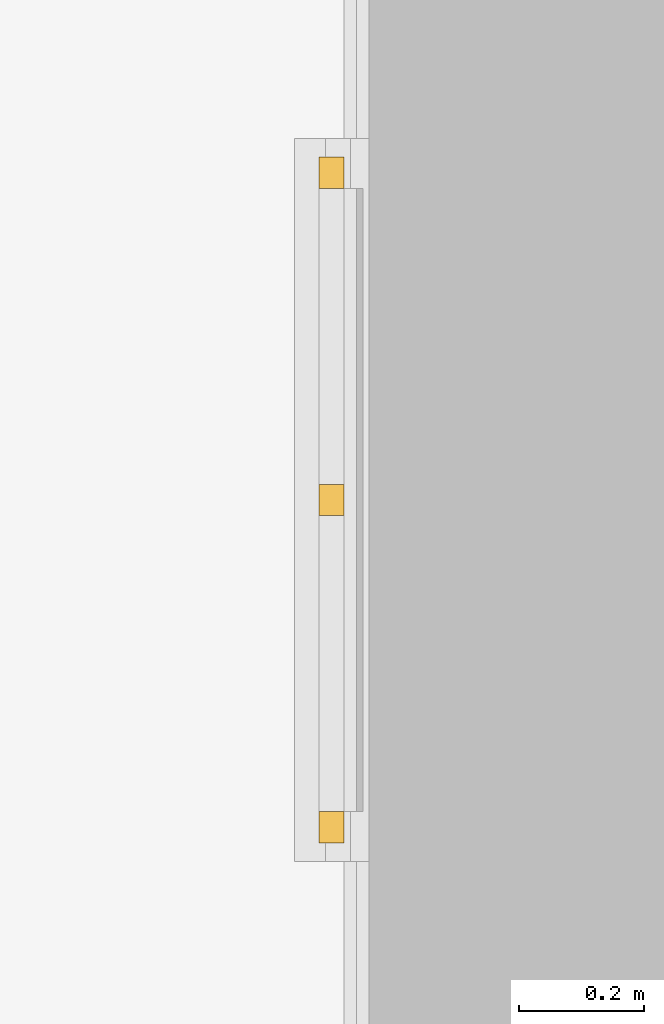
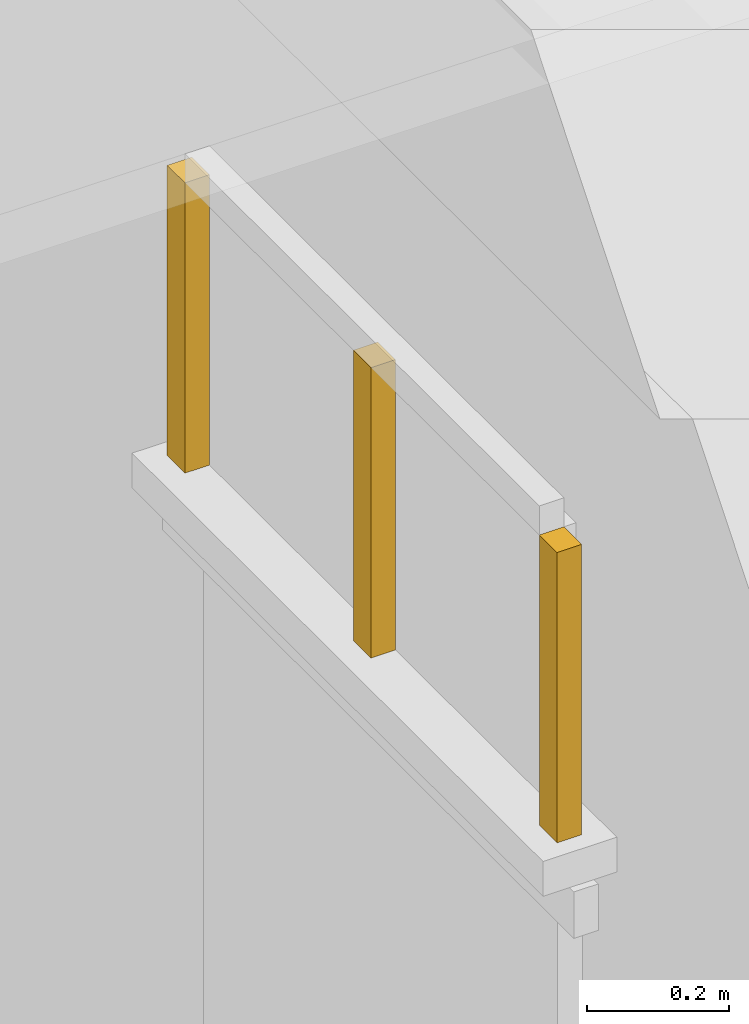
# One storey, part 88 of 177: 3 windows.
"""IFC4 building model written with IfcOpenShell, lengths in metres."""

from ifc_helpers import new_model, si_unit, origin, origin_with_axes, place, context, subcontext, project, spatial, triangles, element, save


model = new_model("IFC4")

# Units and contexts
model_context = context("Model", 3, precision=1e-05, world=origin_with_axes())
body_context = subcontext(model_context, "Body", "Model", "MODEL_VIEW")
ifc_project = project(units=[si_unit("LENGTHUNIT", "METRE"), si_unit("AREAUNIT", "SQUARE_METRE"), si_unit("VOLUMEUNIT", "CUBIC_METRE"), si_unit("PLANEANGLEUNIT", "RADIAN")], contexts=[model_context])

# Site, building, storey
site_placement = place(None, origin_with_axes())
site = spatial("IfcSite", under=ifc_project, at=site_placement, Name="Predio Los Mangos - Morales, San Martín", CompositionType="ELEMENT")
building_placement = place(site_placement, origin())
building = spatial("IfcBuilding", under=site, at=building_placement, Name="Hogar de Refugio Temporal", CompositionType="ELEMENT")
storey_placement = place(building_placement, origin())
storey = spatial("IfcBuildingStorey", under=building, at=storey_placement, Name="NIVEL 1 (NPT +0.00)", CompositionType="ELEMENT", Elevation=0.0)

# Windows
window_1_placement = place(storey_placement, origin())
element("IfcWindow", 1, at=window_1_placement, inside=storey, Name="E-07_vt1_m", ObjectType="Ventana", PredefinedType="WINDOW", context=body_context, shape_type="Tessellation", body=[
    triangles([(55.62, 97.415, 2.45), (55.66, 97.415, 2.45), (55.66, 97.465, 2.45), (55.62, 97.465, 2.45), (55.62, 97.415, 2.95), (55.66, 97.415, 2.95), (55.66, 97.465, 2.95), (55.62, 97.465, 2.95)], [[1, 4, 3], [1, 3, 2], [5, 6, 7], [5, 7, 8], [1, 2, 6], [1, 6, 5], [2, 3, 7], [2, 7, 6], [3, 4, 8], [3, 8, 7], [4, 1, 5], [4, 5, 8]]),
])
window_2_placement = place(storey_placement, origin())
element("IfcWindow", 2, at=window_2_placement, inside=storey, Name="E-07_vt1_m", ObjectType="Ventana", PredefinedType="WINDOW", context=body_context, shape_type="Tessellation", body=[
    triangles([(55.62, 98.465, 2.45), (55.66, 98.465, 2.45), (55.66, 98.515, 2.45), (55.62, 98.515, 2.45), (55.62, 98.465, 2.95), (55.66, 98.465, 2.95), (55.66, 98.515, 2.95), (55.62, 98.515, 2.95)], [[1, 4, 3], [1, 3, 2], [5, 6, 7], [5, 7, 8], [1, 2, 6], [1, 6, 5], [2, 3, 7], [2, 7, 6], [3, 4, 8], [3, 8, 7], [4, 1, 5], [4, 5, 8]]),
])
window_3_placement = place(storey_placement, origin())
element("IfcWindow", 3, at=window_3_placement, inside=storey, Name="E-07_vt1_m", ObjectType="Ventana", PredefinedType="WINDOW", context=body_context, shape_type="Tessellation", body=[
    triangles([(55.62, 97.94, 2.45), (55.66, 97.94, 2.45), (55.66, 97.99, 2.45), (55.62, 97.99, 2.45), (55.62, 97.94, 2.95), (55.66, 97.94, 2.95), (55.66, 97.99, 2.95), (55.62, 97.99, 2.95)], [[1, 4, 3], [1, 3, 2], [5, 6, 7], [5, 7, 8], [1, 2, 6], [1, 6, 5], [2, 3, 7], [2, 7, 6], [3, 4, 8], [3, 8, 7], [4, 1, 5], [4, 5, 8]]),
])

save(model, "model.ifc")
